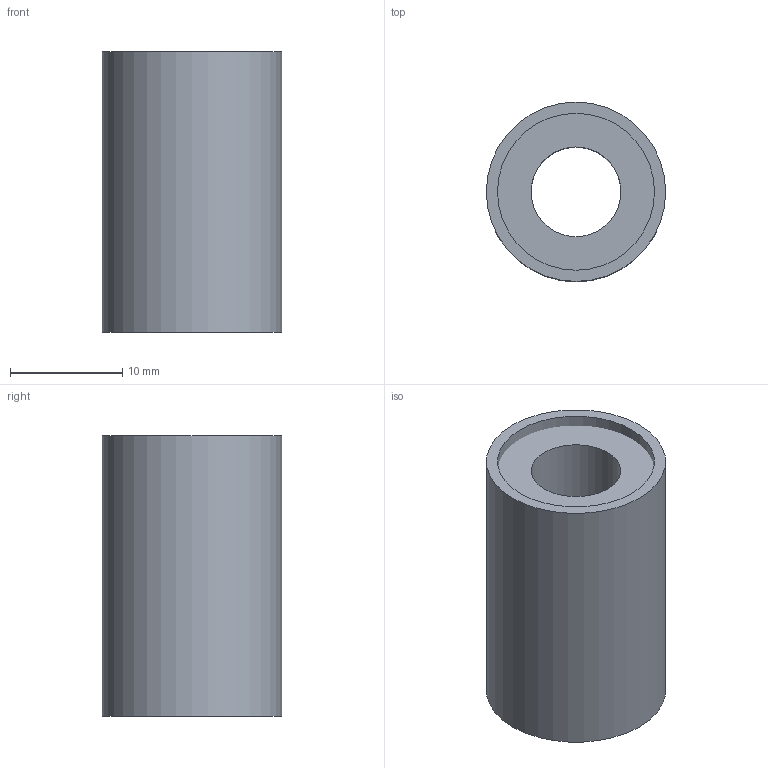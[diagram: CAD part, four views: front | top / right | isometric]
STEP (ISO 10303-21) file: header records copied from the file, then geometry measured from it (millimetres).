
FILE_DESCRIPTION(/* description */ (''),/* implementation_level */ '2;1');
FILE_NAME(/* name */ 'W:\WEBOVKY\Knecht\LME-UU\LME-08-UU\LME-08-UU.stp',/* time_stamp */ '2021-03-08T10:40:36+01:00',/* author */ ('mkorenek'),/* organization */ (''),/* preprocessor_version */ 'ST-DEVELOPER v18.1',/* originating_system */ 'Autodesk Inventor 2021',/* authorisation */ '');
FILE_SCHEMA (('AUTOMOTIVE_DESIGN { 1 0 10303 214 3 1 1 }'));
Length unit declared in the file: millimetre
Products named in the file (3): LME-08-UU; vnějšek pouzdra; vnitřek pouzdra
Assembly tree (2 placements, depth 2):
  LME-08-UU
    vnějšek pouzdra
    vnitřek pouzdra
Bounding box: 16 x 16 x 25 mm (x, y, z)
Volume: 4085.3 mm3; surface area: 4365 mm2
Topology: 2 solids, 2 shells, 8 faces, 16 edges, 12 vertices
Faces by surface type: plane 4, cylinder 4
Full cylindrical faces by diameter (mm): 8 x1, 14 x1, 14.998 x1, 16 x1
Entity records: 365 total; most frequent: DIRECTION 56, CARTESIAN_POINT 42, ORIENTED_EDGE 32, AXIS2_PLACEMENT_3D 26, EDGE_CURVE 16, EDGE_LOOP 12, CIRCLE 12, VERTEX_POINT 12
